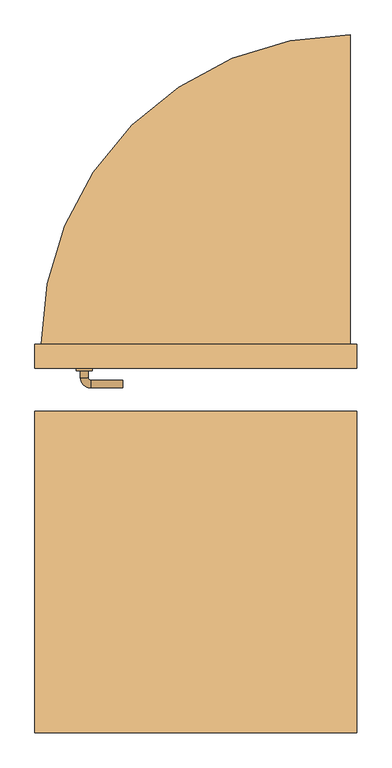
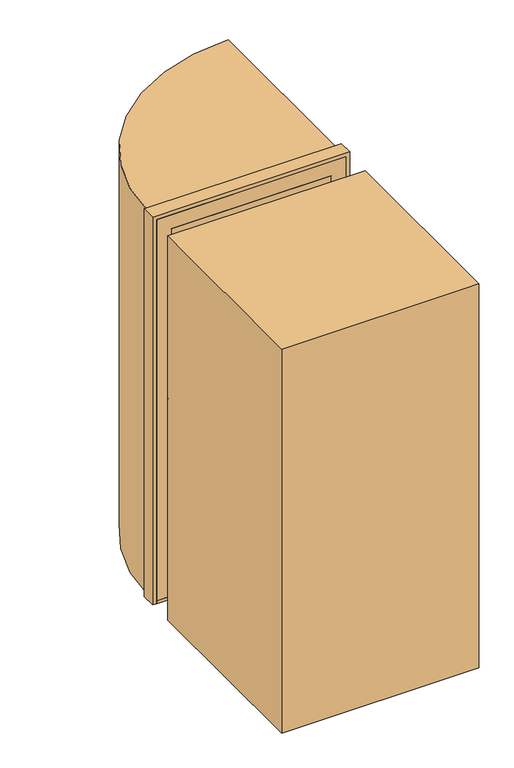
"""IFC4 building model written with IfcOpenShell, lengths in millimetres: door geometry, Дверь_Противопожарная_Металлическая_Однопольная_Глухая : 1000 х 2100(h)_Л_EI30."""

from ifc_helpers import new_model, si_unit, point, frame, frame_2d, origin, origin_with_axes, place, context, project, spatial, polyline, circle_curve, ellipse_curve, trimmed, segment, composite_curve, outline, extrude, source, transform, mapped, element, save
from ifc_brep_helpers import plane_surface, cylinder_surface, revolved_surface, advanced_brep


def door_66c45f72(model_context):
    return source(origin(), model_context, "Body", "SolidModel", [
        extrude(outline(composite_curve([segment(polyline([(485.0, 1075.0), (485.0, 105.0), (-485.0, 105.0)]), True, "CONTINUOUS"), segment(trimmed(circle_curve(frame_2d((485.0, 105.0)), 970.0), [point((-485.0, 105.0))], [point((485.0, 1075.0))], False, "CARTESIAN"), True, "CONTINUOUS")], self_intersect=False)), origin_with_axes(), (0.0, 0.0, 1.0), 2080.0),
        extrude(outline(polyline([(-505.0, -1115.0), (-505.0, -105.0), (505.0, -105.0), (505.0, -1115.0), (-505.0, -1115.0)])), origin_with_axes(), (0.0, 0.0, 1.0), 2080.0),
        advanced_brep(
        [(-230.0, 167.0, 1000.0), (-230.0, 143.0, 1000.0), (-330.0, 167.0, 1000.0), (-330.0, 143.0, 1000.0), (-362.0, 135.0, 1000.0), (-338.0, 135.0, 1000.0), (-362.0, 113.0, 1000.0), (-338.0, 113.0, 1000.0), (-362.0, 0.0, 1000.0), (-338.0, 0.0, 1000.0), (-338.0, 22.0, 1000.0), (-362.0, 22.0, 1000.0), (-330.0, -32.0, 1000.0), (-330.0, -8.0, 1000.0), (-230.0, -32.0, 1000.0), (-230.0, -8.0, 1000.0), (-375.0, 113.0, 1000.0), (-325.0, 113.0, 1000.0), (-375.0, 22.0, 1000.0), (-325.0, 22.0, 1000.0)],
        [
            (0, 1, circle_curve(frame((-230.0, 155.0, 1000.0), z_axis=(1.0, 0.0, 0.0), x_axis=(0.0, -1.0, 0.0)), 12.0)),
            (1, 0, circle_curve(frame((-230.0, 155.0, 1000.0), z_axis=(1.0, 0.0, 0.0), x_axis=(0.0, -1.0, 0.0)), 12.0)),
            (0, 2),
            (2, 3, circle_curve(frame((-330.0, 155.0, 1000.0), z_axis=(1.0, 0.0, 0.0), x_axis=(0.0, -1.0, 0.0)), 12.0)),
            (3, 1),
            (3, 2, circle_curve(frame((-330.0, 155.0, 1000.0), z_axis=(1.0, 0.0, 0.0), x_axis=(0.0, -1.0, 0.0)), 12.0)),
            (2, 4, circle_curve(frame((-330.0, 135.0, 1000.0), z_axis=(0.0, 0.0, 1.0), x_axis=(0.0, 1.0, 0.0)), 32.0)),
            (4, 5, circle_curve(frame((-350.0, 135.0, 1000.0), z_axis=(0.0, 1.0, 0.0), x_axis=(1.0, 0.0, 0.0)), 12.0)),
            (5, 3, circle_curve(frame((-330.0, 135.0, 1000.0), z_axis=(0.0, 0.0, -1.0), x_axis=(0.0, 1.0, 0.0)), 8.0)),
            (5, 4, circle_curve(frame((-350.0, 135.0, 1000.0), z_axis=(0.0, 1.0, 0.0), x_axis=(1.0, 0.0, 0.0)), 12.0)),
            (4, 6),
            (6, 7, circle_curve(frame((-350.0, 113.0, 1000.0), z_axis=(0.0, 1.0, 0.0), x_axis=(1.0, 0.0, 0.0)), 12.0)),
            (7, 5),
            (8, 9, circle_curve(frame((-350.0, 0.0, 1000.0), z_axis=(0.0, 1.0, 0.0), x_axis=(1.0, 0.0, 0.0)), 12.0)),
            (9, 10),
            (10, 11, circle_curve(frame((-350.0, 22.0, 1000.0), z_axis=(0.0, -1.0, 0.0), x_axis=(1.0, 0.0, 0.0)), 12.0)),
            (11, 8),
            (7, 6, circle_curve(frame((-350.0, 113.0, 1000.0), z_axis=(0.0, 1.0, 0.0), x_axis=(1.0, 0.0, 0.0)), 12.0)),
            (9, 8, circle_curve(frame((-350.0, 0.0, 1000.0), z_axis=(0.0, 1.0, 0.0), x_axis=(1.0, 0.0, 0.0)), 12.0)),
            (11, 10, circle_curve(frame((-350.0, 22.0, 1000.0), z_axis=(0.0, -1.0, 0.0), x_axis=(1.0, 0.0, 0.0)), 12.0)),
            (8, 12, circle_curve(frame((-330.0, 0.0, 1000.0), z_axis=(0.0, 0.0, 1.0), x_axis=(-1.0, 0.0, 0.0)), 32.0)),
            (12, 13, circle_curve(frame((-330.0, -20.0, 1000.0), z_axis=(-1.0, 0.0, 0.0), x_axis=(0.0, 1.0, 0.0)), 12.0)),
            (13, 9, circle_curve(frame((-330.0, 0.0, 1000.0), z_axis=(0.0, 0.0, -1.0), x_axis=(-1.0, 0.0, 0.0)), 8.0)),
            (13, 12, circle_curve(frame((-330.0, -20.0, 1000.0), z_axis=(-1.0, 0.0, 0.0), x_axis=(0.0, 1.0, 0.0)), 12.0)),
            (14, 15, circle_curve(frame((-230.0, -20.0, 1000.0), z_axis=(1.0, 0.0, 0.0), x_axis=(0.0, 1.0, 0.0)), 12.0)),
            (15, 14, circle_curve(frame((-230.0, -20.0, 1000.0), z_axis=(1.0, 0.0, 0.0), x_axis=(0.0, 1.0, 0.0)), 12.0)),
            (12, 14),
            (15, 13),
            (16, 17, circle_curve(frame((-350.0, 113.0, 1000.0), z_axis=(0.0, 1.0, 0.0), x_axis=(1.0, 0.0, 0.0)), 25.0)),
            (17, 16, circle_curve(frame((-350.0, 113.0, 1000.0), z_axis=(0.0, 1.0, 0.0), x_axis=(1.0, 0.0, 0.0)), 25.0)),
            (18, 19, circle_curve(frame((-350.0, 22.0, 1000.0), z_axis=(0.0, -1.0, 0.0), x_axis=(1.0, 0.0, 0.0)), 25.0)),
            (19, 18, circle_curve(frame((-350.0, 22.0, 1000.0), z_axis=(0.0, -1.0, 0.0), x_axis=(1.0, 0.0, 0.0)), 25.0)),
            (17, 19),
            (18, 16),
        ],
        [
            plane_surface(frame((-230.0, 155.0, 1000.0), z_axis=(1.0, 0.0, 0.0), x_axis=(0.0, 0.0, 1.0))),
            cylinder_surface(frame((-230.0, 155.0, 1000.0), z_axis=(1.0, 0.0, 0.0), x_axis=(0.0, -1.0, 0.0)), 12.0),
            revolved_surface(trimmed(ellipse_curve(frame((-330.0, 155.0, 1000.0), z_axis=(1.0, 0.0, 0.0), x_axis=(0.0, -1.0, 0.0)), 12.0, 12.0), [point((-330.0, 167.0, 1000.0))], [point((-330.0, 143.0, 1000.0))], True, "CARTESIAN"), (-330.0, 135.0, 1000.0), (0.0, 0.0, 1.0)),
            revolved_surface(trimmed(ellipse_curve(frame((-330.0, 155.0, 1000.0), z_axis=(1.0, 0.0, 0.0), x_axis=(0.0, -1.0, 0.0)), 12.0, 12.0), [point((-330.0, 143.0, 1000.0))], [point((-330.0, 167.0, 1000.0))], True, "CARTESIAN"), (-330.0, 135.0, 1000.0), (0.0, 0.0, 1.0)),
            cylinder_surface(frame((-350.0, 135.0, 1000.0), z_axis=(0.0, 1.0, 0.0), x_axis=(1.0, 0.0, 0.0)), 12.0),
            revolved_surface(trimmed(ellipse_curve(frame((-350.0, 0.0, 1000.0), z_axis=(0.0, 1.0, 0.0), x_axis=(1.0, 0.0, 0.0)), 12.0, 12.0), [point((-362.0, 0.0, 1000.0))], [point((-338.0, 0.0, 1000.0))], True, "CARTESIAN"), (-330.0, 0.0, 1000.0), (0.0, 0.0, 1.0)),
            revolved_surface(trimmed(ellipse_curve(frame((-350.0, 0.0, 1000.0), z_axis=(0.0, 1.0, 0.0), x_axis=(1.0, 0.0, 0.0)), 12.0, 12.0), [point((-338.0, 0.0, 1000.0))], [point((-362.0, 0.0, 1000.0))], True, "CARTESIAN"), (-330.0, 0.0, 1000.0), (0.0, 0.0, 1.0)),
            plane_surface(frame((-230.0, -20.0, 1000.0), z_axis=(1.0, 0.0, 0.0), x_axis=(0.0, 0.0, 1.0))),
            cylinder_surface(frame((-330.0, -20.0, 1000.0), z_axis=(-1.0, 0.0, 0.0), x_axis=(0.0, 1.0, 0.0)), 12.0),
            plane_surface(frame((-325.0, 113.0, 1000.0), z_axis=(0.0, 1.0, 0.0), x_axis=(0.0, 0.0, -1.0))),
            plane_surface(frame((-325.0, 22.0, 1000.0), z_axis=(0.0, -1.0, 0.0), x_axis=(0.0, 0.0, 1.0))),
            cylinder_surface(frame((-350.0, 113.0, 1000.0), z_axis=(0.0, -1.0, 0.0), x_axis=(1.0, 0.0, 0.0)), 25.0),
        ],
        [
            (0, [[1, 2]]),
            (1, [[-1, 3, 4, 5]]),
            (1, [[-2, -5, 6, -3]]),
            (2, [[-4, 7, 8, 9]]),
            (3, [[-6, -9, 10, -7]]),
            (4, [[-8, 11, 12, 13]]),
            (4, [[14, 15, 16, 17]]),
            (4, [[-10, -13, 18, -11]]),
            (4, [[19, -17, 20, -15]]),
            (5, [[-14, 21, 22, 23]]),
            (6, [[-19, -23, 24, -21]]),
            (7, [[25, 26]]),
            (8, [[-22, 27, -26, 28]]),
            (8, [[-24, -28, -25, -27]]),
            (9, [[29, 30], [-12, -18]]),
            (10, [[31, 32], [-16, -20]]),
            (11, [[-30, 33, -31, 34]]),
            (11, [[-29, -34, -32, -33]]),
        ],
    ),
        extrude(outline(composite_curve([segment(trimmed(circle_curve(frame_2d((900.0, -350.0)), 25.0), [point((900.0, -375.0))], [point((900.0, -325.0))], False, "CARTESIAN"), True, "CONTINUOUS"), segment(trimmed(circle_curve(frame_2d((900.0, -350.0)), 25.0), [point((900.0, -325.0))], [point((900.0, -375.0))], False, "CARTESIAN"), True, "CONTINUOUS")], self_intersect=False)), frame((0.0, 22.0, 0.0), z_axis=(0.0, 1.0, 0.0), x_axis=(0.0, 0.0, 1.0)), (0.0, 0.0, 1.0), 91.0),
        extrude(outline(polyline([(15.0, -485.0), (15.0, -410.0), (2005.0, -410.0), (2005.0, 410.0), (15.0, 410.0), (15.0, 485.0), (2080.0, 485.0), (2080.0, -485.0), (15.0, -485.0)])), frame((0.0, 30.0, 0.0), z_axis=(0.0, 1.0, 0.0), x_axis=(0.0, 0.0, 1.0)), (0.0, 0.0, 1.0), 75.0),
        extrude(outline(polyline([(0.0, 505.0), (2100.0, 505.0), (2100.0, -505.0), (0.0, -505.0), (0.0, -485.0), (2080.0, -485.0), (2080.0, 485.0), (0.0, 485.0), (0.0, 505.0)])), frame((0.0, 30.0, 0.0), z_axis=(0.0, 1.0, 0.0), x_axis=(0.0, 0.0, 1.0)), (0.0, 0.0, 1.0), 75.0),
        extrude(outline(polyline([(485.0, 105.0), (485.0, 30.0), (-485.0, 30.0), (-485.0, 105.0), (485.0, 105.0)])), origin_with_axes(), (0.0, 0.0, 1.0), 15.0),
        extrude(outline(polyline([(410.0, 105.0), (410.0, 30.0), (-410.0, 30.0), (-410.0, 105.0), (410.0, 105.0)])), frame((0.0, 0.0, 15.0), z_axis=(0.0, 0.0, 1.0), x_axis=(1.0, 0.0, 0.0)), (0.0, 0.0, 1.0), 1990.0),
    ])


if __name__ == "__main__":
    model = new_model("IFC4")
    model_context = context("Model", 3, world=origin())
    ifc_project = project(units=[si_unit("LENGTHUNIT", "METRE", prefix="MILLI")], contexts=[model_context])
    site = spatial("IfcSite", under=ifc_project)
    building = spatial("IfcBuilding", under=site)
    placement = place(None, origin())
    door_shape = door_66c45f72(model_context)
    element("IfcDoor", 1, ObjectType="Дверь_Противопожарная_Металлическая_Однопольная_Глухая : 1000 х 2100(h)_Л_EI30", at=placement, inside=building, context=model_context, shape_type="MappedRepresentation", body=[
        mapped(door_shape, transform((0.0, 0.0, 0.0), x_axis=(1.0, 0.0, 0.0), y_axis=(0.0, 1.0, 0.0), z_axis=(0.0, 0.0, 1.0))),
    ])
    save(model, "model.ifc")
